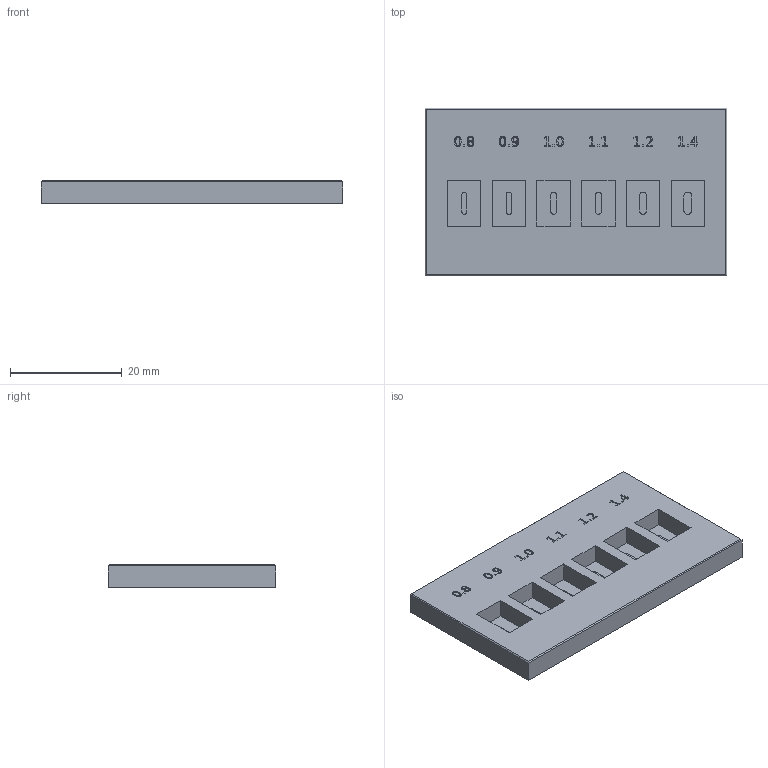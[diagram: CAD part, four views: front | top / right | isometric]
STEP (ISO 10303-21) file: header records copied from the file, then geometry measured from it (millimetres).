
FILE_DESCRIPTION(('Open CASCADE Model'),'2;1');
FILE_NAME('Open CASCADE Shape Model','2026-10-31T05:48:36',('Author'),( 'Open CASCADE'),'Open CASCADE STEP processor 7.8','Open CASCADE 7.8' ,'Unknown');
FILE_SCHEMA(('AUTOMOTIVE_DESIGN { 1 0 10303 214 1 1 1 1 }'));
Length unit declared in the file: millimetre
Products named in the file (1): Open CASCADE STEP translator 7.8 6
Bounding box: 54 x 30 x 4 mm (x, y, z)
Volume: 5453.1 mm3; surface area: 4540.1 mm2
Topology: 1 solids, 1 shells, 314 faces, 821 edges, 546 vertices
Faces by surface type: plane 182, extrusion 120, cylinder 12
Entity records: 22150 total; most frequent: CARTESIAN_POINT 7110, DIRECTION 2115, VECTOR 1665, ORIENTED_EDGE 1642, PCURVE 1642, DEFINITIONAL_REPRESENTATION 1642, LINE 1545, B_SPLINE_CURVE_WITH_KNOTS 990
